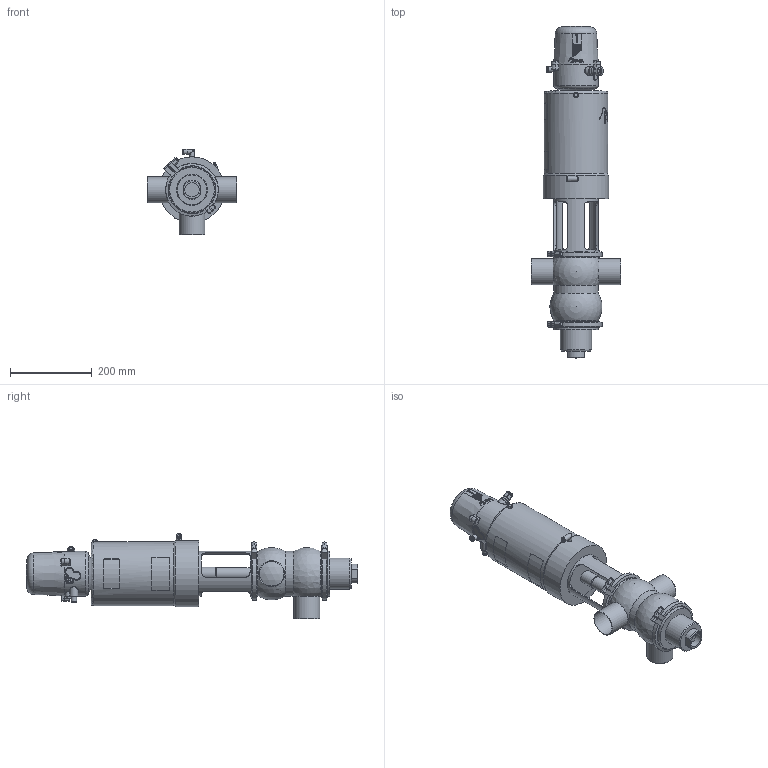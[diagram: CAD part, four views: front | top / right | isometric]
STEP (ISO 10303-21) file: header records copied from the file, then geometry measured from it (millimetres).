
FILE_DESCRIPTION (( 'STEP AP214' ), '1' );
FILE_NAME ('INNOVA S AB-90 W OD 2½ & C-TOP S_10.251.16.0011.STEP', '2024-08-19T11:02:36', ( '' ), ( '' ), 'SwSTEP 2.0', 'SolidWorks 2023', '' );
FILE_SCHEMA (( 'AUTOMOTIVE_DESIGN' ));
Length unit declared in the file: millimetre
Products named in the file (7): INNOVA S AB-90 W OD 2½ & C-TOP S_10.251.16.0011; 10.251.15.0001_OD 2½"; 10.426.15.0001_C-TOP S - 1 EV; 10.251.15.0003_OD 2½"; 10.250.15.0002_Type S T2; 10.240.15.0001_DN 065; 10.251.15.0002_DN 2½"
Assembly tree (7 placements, depth 2):
  INNOVA S AB-90 W OD 2½ & C-TOP S_10.251.16.0011
    10.251.15.0001_OD 2½"
    10.250.15.0002_Type S T2
    10.426.15.0001_C-TOP S - 1 EV
    10.251.15.0003_OD 2½"
    10.240.15.0001_DN 065  x2
    10.251.15.0002_DN 2½"
Bounding box: 220 x 811.8 x 209 mm (x, y, z)
Volume: 9258596.1 mm3; surface area: 578150 mm2
Topology: 7 solids, 7 shells, 1188 faces, 2865 edges, 1904 vertices
Faces by surface type: plane 413, cylinder 371, cone 202, bspline 160, torus 33, sphere 9
Full cylindrical faces by diameter (mm): 0.371 x17, 0.512 x16, 0.658 x16, 0.795 x16, 0.94 x15, 1.098 x15, 1.241 x13, 1.382 x13, 1.523 x11, 1.669 x10, 2.201 x1, 4.2 x2, 5 x1, 5.5 x2, 6 x3, 6.15 x1, 8 x5, 8.5 x1, 10 x1, 10.5 x2, 11 x2, 12.5 x6, 13 x2, 13.5 x2, 17 x3, 20 x2, 22 x2, 30.5 x1, 32 x1, 35 x1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
Entity records: 59332 total; most frequent: CARTESIAN_POINT 28525, ORIENTED_EDGE 4586, DIRECTION 3703, EDGE_CURVE 2293, VERTEX_POINT 1625, EDGE_LOOP 1586, AXIS2_PLACEMENT_3D 1512, FACE_OUTER_BOUND 1345
